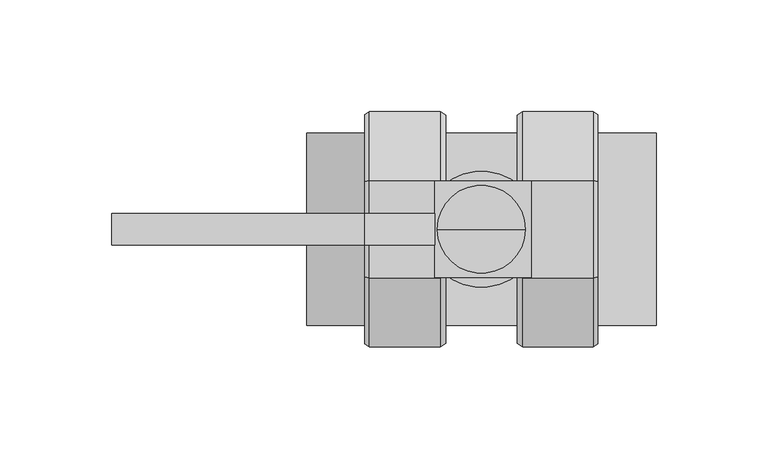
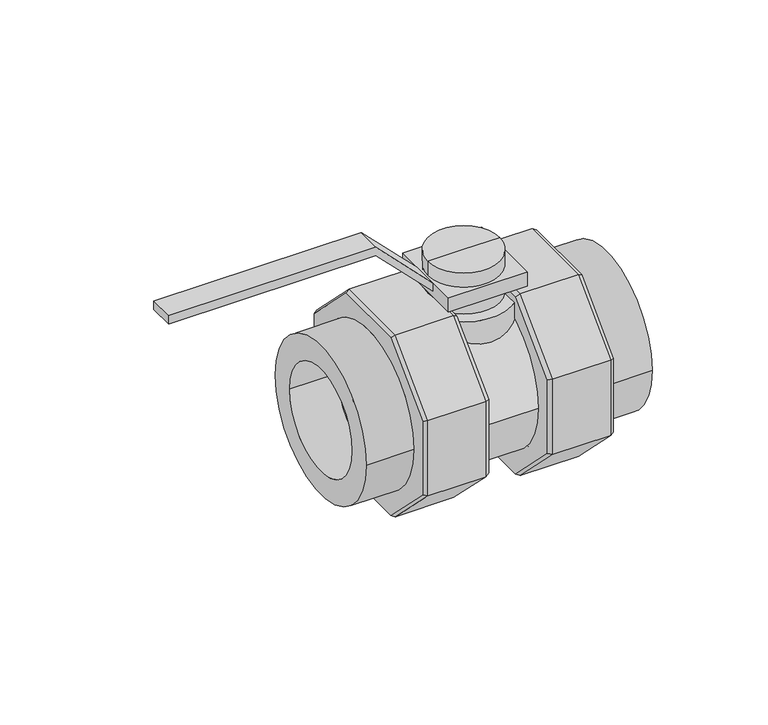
"""IFC4 building model written with IfcOpenShell, lengths in millimetres: valve geometry, EGB_VASEN_ PPR_Valvula de bola doble union WXR800 : Válvula de bola doble unión WXR800."""

from ifc_helpers import new_model, si_unit, point, frame, origin, origin_2d, place, context, project, spatial, polyline, circle_curve, trimmed, segment, composite_curve, outline, extrude, source, transform, mapped, element, save
from ifc_brep_helpers import plane_surface, cylinder_surface, revolved_surface, advanced_brep


def valve_08ffe37b(model_context):
    return source(origin(), model_context, "Body", "SolidModel", [
        advanced_brep(
        [(50.0, 21.746212, 52.5), (50.0, 52.5, 21.746212), (18.3609593, 52.5, 21.746212), (18.3609593, 21.746212, 52.5), (18.3609593, -21.746212, 52.5), (50.0, -21.746212, 52.5), (50.0, -21.746212, -52.5), (50.0, -52.5, -21.746212), (18.3609593, -52.5, -21.746212), (18.3609593, -21.746212, -52.5), (18.3609593, 21.746212, -52.5), (50.0, 21.746212, -52.5), (18.3609593, -52.5, 21.746212), (50.0, -52.5, 21.746212), (18.3609593, 52.5, -21.746212), (50.0, 52.5, -21.746212), (52.0, 21.2679194, 51.3452995), (52.0, -21.2679194, 51.3452995), (52.0, -51.3452995, 21.2679194), (52.0, -51.3452995, -21.2679194), (52.0, -21.2679194, -51.3452995), (52.0, 21.2679194, -51.3452995), (52.0, 51.3452995, -21.2679194), (52.0, 51.3452995, 21.2679194), (52.0, 43.0, 0.0), (52.0, -43.0, 0.0), (15.9114696, 51.0857864, 21.1604256), (15.9114696, 51.0857864, -21.1604256), (15.9114696, 21.1604256, -51.0857864), (15.9114696, -21.1604256, -51.0857864), (15.9114696, -51.0857864, -21.1604256), (15.9114696, -51.0857864, 21.1604256), (15.9114696, -21.1604256, 51.0857864), (15.9114696, 21.1604256, 51.0857864), (15.9114696, -43.0, 0.0), (15.9114696, 43.0, 0.0)],
        [
            (0, 1),
            (1, 2),
            (2, 3),
            (3, 0),
            (3, 4),
            (4, 5),
            (5, 0),
            (6, 7),
            (7, 8),
            (8, 9),
            (9, 6),
            (9, 10),
            (10, 11),
            (11, 6),
            (4, 12),
            (12, 13),
            (13, 5),
            (12, 8),
            (7, 13),
            (10, 14),
            (14, 15),
            (15, 11),
            (16, 17),
            (17, 18),
            (18, 19),
            (19, 20),
            (20, 21),
            (21, 22),
            (22, 23),
            (23, 16),
            (24, 25, circle_curve(frame((52.0, 0.0, 0.0), z_axis=(-1.0, 0.0, 0.0), x_axis=(0.0, -1.0, 0.0)), 43.0)),
            (25, 24, circle_curve(frame((52.0, 0.0, 0.0), z_axis=(-1.0, 0.0, 0.0), x_axis=(0.0, -1.0, 0.0)), 43.0)),
            (14, 2),
            (1, 15),
            (26, 27),
            (27, 28),
            (28, 29),
            (29, 30),
            (30, 31),
            (31, 32),
            (32, 33),
            (33, 26),
            (34, 35, circle_curve(frame((15.9114696, 0.0, 0.0), z_axis=(1.0, 0.0, 0.0), x_axis=(0.0, -1.0, 0.0)), 43.0)),
            (35, 34, circle_curve(frame((15.9114696, 0.0, 0.0), z_axis=(1.0, 0.0, 0.0), x_axis=(0.0, -1.0, 0.0)), 43.0)),
            (2, 26),
            (33, 3),
            (23, 1),
            (0, 16),
            (32, 4),
            (5, 17),
            (8, 30),
            (29, 9),
            (19, 7),
            (6, 20),
            (28, 10),
            (11, 21),
            (31, 12),
            (13, 18),
            (27, 14),
            (15, 22),
            (25, 34),
            (35, 24),
        ],
        [
            plane_surface(frame((52.0, 52.5, 21.746212), z_axis=(0.0, 0.7071067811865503, 0.7071067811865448), x_axis=(0.0, -0.7071067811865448, 0.7071067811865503))),
            plane_surface(frame((52.0, 21.746212, 52.5), z_axis=(0.0, 0.0, 1.0), x_axis=(0.0, -1.0, 0.0))),
            plane_surface(frame((52.0, -52.5, -21.746212), z_axis=(0.0, -0.7071067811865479, -0.7071067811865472), x_axis=(0.0, 0.7071067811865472, -0.7071067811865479))),
            plane_surface(frame((52.0, -21.746212, -52.5), z_axis=(0.0, 0.0, -1.0), x_axis=(0.0, 1.0, 0.0))),
            plane_surface(frame((52.0, -21.746212, 52.5), z_axis=(0.0, -0.7071067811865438, 0.7071067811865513), x_axis=(0.0, -0.7071067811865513, -0.7071067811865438))),
            plane_surface(frame((52.0, -52.5, 21.746212), z_axis=(0.0, -1.0, 0.0), x_axis=(0.0, 0.0, -1.0))),
            plane_surface(frame((52.0, 21.746212, -52.5), z_axis=(0.0, 0.7071067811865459, -0.7071067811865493), x_axis=(0.0, 0.7071067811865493, 0.7071067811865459))),
            plane_surface(frame((52.0, 0.0, 0.0), z_axis=(1.0, 0.0, 0.0), x_axis=(0.0, 0.0, 1.0))),
            plane_surface(frame((52.0, 52.5, -21.746212), z_axis=(0.0, 1.0, 0.0), x_axis=(0.0, 0.0, 1.0))),
            plane_surface(frame((15.9114696, 52.5, -21.746212), z_axis=(-1.0, 0.0, 0.0), x_axis=(0.0, 0.0, 1.0))),
            plane_surface(frame((15.9114696, 51.0857864, 21.1604256), z_axis=(-0.49999999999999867, 0.6123724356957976, 0.6123724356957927), x_axis=(0.0, -0.7071067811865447, 0.7071067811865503))),
            plane_surface(frame((50.0, 52.5, 21.746212), z_axis=(0.4999999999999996, 0.6123724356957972, 0.6123724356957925), x_axis=(0.0, -0.7071067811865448, 0.7071067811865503))),
            plane_surface(frame((15.9114696, 21.1604256, 51.0857864), z_axis=(-0.4999999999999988, 0.0, 0.8660254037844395), x_axis=(0.0, -1.0, 0.0))),
            plane_surface(frame((50.0, 21.746212, 52.5), z_axis=(0.4999999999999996, 0.0, 0.866025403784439), x_axis=(0.0, -1.0, 0.0))),
            plane_surface(frame((15.9114696, -51.0857864, -21.1604256), z_axis=(-0.4999999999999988, -0.6123724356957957, -0.6123724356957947), x_axis=(0.0, 0.707106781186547, -0.7071067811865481))),
            plane_surface(frame((50.0, -52.5, -21.746212), z_axis=(0.49999999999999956, -0.6123724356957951, -0.6123724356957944), x_axis=(0.0, 0.7071067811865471, -0.707106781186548))),
            plane_surface(frame((15.9114696, -21.1604256, -51.0857864), z_axis=(-0.4999999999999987, 0.0, -0.8660254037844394), x_axis=(0.0, 1.0, 0.0))),
            plane_surface(frame((50.0, -21.746212, -52.5), z_axis=(0.4999999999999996, 0.0, -0.8660254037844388), x_axis=(0.0, 1.0, 0.0))),
            plane_surface(frame((15.9114696, -21.1604256, 51.0857864), z_axis=(-0.4999999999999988, -0.6123724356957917, 0.6123724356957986), x_axis=(0.0, -0.7071067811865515, -0.7071067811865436))),
            plane_surface(frame((50.0, -21.746212, 52.5), z_axis=(0.49999999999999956, -0.6123724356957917, 0.612372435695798), x_axis=(0.0, -0.7071067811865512, -0.7071067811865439))),
            plane_surface(frame((15.9114696, -51.0857864, 21.1604256), z_axis=(-0.49999999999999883, -0.8660254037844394, 0.0), x_axis=(0.0, 0.0, -1.0))),
            plane_surface(frame((50.0, -52.5, 21.746212), z_axis=(0.49999999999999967, -0.8660254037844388, 0.0), x_axis=(0.0, 0.0, -1.0))),
            plane_surface(frame((15.9114696, 21.1604256, -51.0857864), z_axis=(-0.4999999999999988, 0.6123724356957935, -0.6123724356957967), x_axis=(0.0, 0.7071067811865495, 0.7071067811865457))),
            plane_surface(frame((50.0, 21.746212, -52.5), z_axis=(0.49999999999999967, 0.6123724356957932, -0.6123724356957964), x_axis=(0.0, 0.7071067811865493, 0.7071067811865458))),
            plane_surface(frame((15.9114696, 51.0857864, -21.1604256), z_axis=(-0.4999999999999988, 0.8660254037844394, 0.0), x_axis=(0.0, 0.0, 1.0))),
            plane_surface(frame((50.0, 52.5, -21.746212), z_axis=(0.4999999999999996, 0.8660254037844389, 0.0), x_axis=(0.0, 0.0, 1.0))),
            revolved_surface(polyline([(15.911469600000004, -43.0, 0.0), (52.0, -43.0, 0.0)]), (52.0, 0.0, 0.0), (-1.0, 0.0, 0.0)),
        ],
        [
            (0, [[1, 2, 3, 4]]),
            (1, [[5, 6, 7, -4]]),
            (2, [[8, 9, 10, 11]]),
            (3, [[12, 13, 14, -11]]),
            (4, [[15, 16, 17, -6]]),
            (5, [[18, -9, 19, -16]]),
            (6, [[20, 21, 22, -13]]),
            (7, [[23, 24, 25, 26, 27, 28, 29, 30], [31, 32]]),
            (8, [[33, -2, 34, -21]]),
            (9, [[35, 36, 37, 38, 39, 40, 41, 42], [43, 44]]),
            (10, [[-3, 45, -42, 46]]),
            (11, [[-30, 47, -1, 48]]),
            (12, [[-41, 49, -5, -46]]),
            (13, [[-7, 50, -23, -48]]),
            (14, [[-10, 51, -38, 52]]),
            (15, [[-26, 53, -8, 54]]),
            (16, [[-37, 55, -12, -52]]),
            (17, [[-14, 56, -27, -54]]),
            (18, [[-40, 57, -15, -49]]),
            (19, [[-17, 58, -24, -50]]),
            (20, [[-18, -57, -39, -51]]),
            (21, [[-25, -58, -19, -53]]),
            (22, [[-36, 59, -20, -55]]),
            (23, [[-22, 60, -28, -56]]),
            (24, [[-33, -59, -35, -45]]),
            (25, [[-29, -60, -34, -47]]),
            (26, [[-32, 61, -44, 62]]),
            (26, [[-43, -61, -31, -62]]),
        ],
    ),
        advanced_brep(
        [(-50.0, 21.746212, 52.5), (-18.3609593, 21.746212, 52.5), (-18.3609593, 52.5, 21.746212), (-50.0, 52.5, 21.746212), (-50.0, -21.746212, 52.5), (-18.3609593, -21.746212, 52.5), (-50.0, -21.746212, -52.5), (-18.3609593, -21.746212, -52.5), (-18.3609593, -52.5, -21.746212), (-50.0, -52.5, -21.746212), (-50.0, 21.746212, -52.5), (-18.3609593, 21.746212, -52.5), (-50.0, -52.5, 21.746212), (-18.3609593, -52.5, 21.746212), (-50.0, 52.5, -21.746212), (-18.3609593, 52.5, -21.746212), (-52.0, 21.2679194, 51.3452995), (-52.0, 51.3452995, 21.2679194), (-52.0, 51.3452995, -21.2679194), (-52.0, 21.2679194, -51.3452995), (-52.0, -21.2679194, -51.3452995), (-52.0, -51.3452995, -21.2679194), (-52.0, -51.3452995, 21.2679194), (-52.0, -21.2679194, 51.3452995), (-52.0, 43.0, 0.0), (-52.0, -43.0, 0.0), (-15.9114696, 51.0857864, 21.1604256), (-15.9114696, 21.1604256, 51.0857864), (-15.9114696, -21.1604256, 51.0857864), (-15.9114696, -51.0857864, 21.1604256), (-15.9114696, -51.0857864, -21.1604256), (-15.9114696, -21.1604256, -51.0857864), (-15.9114696, 21.1604256, -51.0857864), (-15.9114696, 51.0857864, -21.1604256), (-15.9114696, -43.0, 0.0), (-15.9114696, 43.0, 0.0)],
        [
            (0, 1),
            (1, 2),
            (2, 3),
            (3, 0),
            (0, 4),
            (4, 5),
            (5, 1),
            (6, 7),
            (7, 8),
            (8, 9),
            (9, 6),
            (6, 10),
            (10, 11),
            (11, 7),
            (4, 12),
            (12, 13),
            (13, 5),
            (12, 9),
            (8, 13),
            (10, 14),
            (14, 15),
            (15, 11),
            (16, 17),
            (17, 18),
            (18, 19),
            (19, 20),
            (20, 21),
            (21, 22),
            (22, 23),
            (23, 16),
            (24, 25, circle_curve(frame((-52.0, 0.0, 0.0), z_axis=(1.0, 0.0, 0.0), x_axis=(0.0, -1.0, 0.0)), 43.0)),
            (25, 24, circle_curve(frame((-52.0, 0.0, 0.0), z_axis=(1.0, 0.0, 0.0), x_axis=(0.0, -1.0, 0.0)), 43.0)),
            (14, 3),
            (2, 15),
            (26, 27),
            (27, 28),
            (28, 29),
            (29, 30),
            (30, 31),
            (31, 32),
            (32, 33),
            (33, 26),
            (34, 35, circle_curve(frame((-15.9114696, 0.0, 0.0), z_axis=(-1.0, 0.0, 0.0), x_axis=(0.0, -1.0, 0.0)), 43.0)),
            (35, 34, circle_curve(frame((-15.9114696, 0.0, 0.0), z_axis=(-1.0, 0.0, 0.0), x_axis=(0.0, -1.0, 0.0)), 43.0)),
            (1, 27),
            (26, 2),
            (16, 0),
            (3, 17),
            (5, 28),
            (23, 4),
            (7, 31),
            (30, 8),
            (20, 6),
            (9, 21),
            (11, 32),
            (19, 10),
            (13, 29),
            (22, 12),
            (15, 33),
            (18, 14),
            (24, 35),
            (34, 25),
        ],
        [
            plane_surface(frame((-52.0, 52.5, 21.746212), z_axis=(0.0, 0.7071067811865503, 0.7071067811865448), x_axis=(0.0, -0.7071067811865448, 0.7071067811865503))),
            plane_surface(frame((-52.0, 21.746212, 52.5), z_axis=(0.0, 0.0, 1.0), x_axis=(0.0, -1.0, 0.0))),
            plane_surface(frame((-52.0, -52.5, -21.746212), z_axis=(0.0, -0.7071067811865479, -0.7071067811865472), x_axis=(0.0, 0.7071067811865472, -0.7071067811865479))),
            plane_surface(frame((-52.0, -21.746212, -52.5), z_axis=(0.0, 0.0, -1.0), x_axis=(0.0, 1.0, 0.0))),
            plane_surface(frame((-52.0, -21.746212, 52.5), z_axis=(0.0, -0.7071067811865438, 0.7071067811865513), x_axis=(0.0, -0.7071067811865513, -0.7071067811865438))),
            plane_surface(frame((-52.0, -52.5, 21.746212), z_axis=(0.0, -1.0, 0.0), x_axis=(0.0, 0.0, -1.0))),
            plane_surface(frame((-52.0, 21.746212, -52.5), z_axis=(0.0, 0.7071067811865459, -0.7071067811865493), x_axis=(0.0, 0.7071067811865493, 0.7071067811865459))),
            plane_surface(frame((-52.0, 0.0, 0.0), z_axis=(-1.0, 0.0, 0.0), x_axis=(0.0, 0.0, 1.0))),
            plane_surface(frame((-52.0, 52.5, -21.746212), z_axis=(0.0, 1.0, 0.0), x_axis=(0.0, 0.0, 1.0))),
            plane_surface(frame((-15.9114696, 52.5, -21.746212), z_axis=(1.0, 0.0, 0.0), x_axis=(0.0, 0.0, 1.0))),
            plane_surface(frame((-15.9114696, 51.0857864, 21.1604256), z_axis=(0.49999999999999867, 0.6123724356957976, 0.6123724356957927), x_axis=(0.0, -0.7071067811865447, 0.7071067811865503))),
            plane_surface(frame((-50.0, 52.5, 21.746212), z_axis=(-0.4999999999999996, 0.6123724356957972, 0.6123724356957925), x_axis=(0.0, -0.7071067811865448, 0.7071067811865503))),
            plane_surface(frame((-15.9114696, 21.1604256, 51.0857864), z_axis=(0.4999999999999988, 0.0, 0.8660254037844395), x_axis=(0.0, -1.0, 0.0))),
            plane_surface(frame((-50.0, 21.746212, 52.5), z_axis=(-0.4999999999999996, 0.0, 0.866025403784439), x_axis=(0.0, -1.0, 0.0))),
            plane_surface(frame((-15.9114696, -51.0857864, -21.1604256), z_axis=(0.4999999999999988, -0.6123724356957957, -0.6123724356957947), x_axis=(0.0, 0.707106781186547, -0.7071067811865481))),
            plane_surface(frame((-50.0, -52.5, -21.746212), z_axis=(-0.49999999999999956, -0.6123724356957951, -0.6123724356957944), x_axis=(0.0, 0.7071067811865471, -0.707106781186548))),
            plane_surface(frame((-15.9114696, -21.1604256, -51.0857864), z_axis=(0.4999999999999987, 0.0, -0.8660254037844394), x_axis=(0.0, 1.0, 0.0))),
            plane_surface(frame((-50.0, -21.746212, -52.5), z_axis=(-0.4999999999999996, 0.0, -0.8660254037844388), x_axis=(0.0, 1.0, 0.0))),
            plane_surface(frame((-15.9114696, -21.1604256, 51.0857864), z_axis=(0.4999999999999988, -0.6123724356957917, 0.6123724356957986), x_axis=(0.0, -0.7071067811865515, -0.7071067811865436))),
            plane_surface(frame((-50.0, -21.746212, 52.5), z_axis=(-0.49999999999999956, -0.6123724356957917, 0.612372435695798), x_axis=(0.0, -0.7071067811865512, -0.7071067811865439))),
            plane_surface(frame((-15.9114696, -51.0857864, 21.1604256), z_axis=(0.49999999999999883, -0.8660254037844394, 0.0), x_axis=(0.0, 0.0, -1.0))),
            plane_surface(frame((-50.0, -52.5, 21.746212), z_axis=(-0.49999999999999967, -0.8660254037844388, 0.0), x_axis=(0.0, 0.0, -1.0))),
            plane_surface(frame((-15.9114696, 21.1604256, -51.0857864), z_axis=(0.4999999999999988, 0.6123724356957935, -0.6123724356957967), x_axis=(0.0, 0.7071067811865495, 0.7071067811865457))),
            plane_surface(frame((-50.0, 21.746212, -52.5), z_axis=(-0.49999999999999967, 0.6123724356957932, -0.6123724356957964), x_axis=(0.0, 0.7071067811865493, 0.7071067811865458))),
            plane_surface(frame((-15.9114696, 51.0857864, -21.1604256), z_axis=(0.4999999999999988, 0.8660254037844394, 0.0), x_axis=(0.0, 0.0, 1.0))),
            plane_surface(frame((-50.0, 52.5, -21.746212), z_axis=(-0.4999999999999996, 0.8660254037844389, 0.0), x_axis=(0.0, 0.0, 1.0))),
            revolved_surface(polyline([(-15.911469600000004, -43.0, 0.0), (-52.0, -43.0, 0.0)]), (-52.0, 0.0, 0.0), (1.0, 0.0, 0.0)),
        ],
        [
            (0, [[1, 2, 3, 4]]),
            (1, [[-1, 5, 6, 7]]),
            (2, [[8, 9, 10, 11]]),
            (3, [[-8, 12, 13, 14]]),
            (4, [[-6, 15, 16, 17]]),
            (5, [[-16, 18, -10, 19]]),
            (6, [[-13, 20, 21, 22]]),
            (7, [[23, 24, 25, 26, 27, 28, 29, 30], [31, 32]]),
            (8, [[-21, 33, -3, 34]]),
            (9, [[35, 36, 37, 38, 39, 40, 41, 42], [43, 44]]),
            (10, [[45, -35, 46, -2]]),
            (11, [[47, -4, 48, -23]]),
            (12, [[-45, -7, 49, -36]]),
            (13, [[-47, -30, 50, -5]]),
            (14, [[51, -39, 52, -9]]),
            (15, [[53, -11, 54, -27]]),
            (16, [[-51, -14, 55, -40]]),
            (17, [[-53, -26, 56, -12]]),
            (18, [[-49, -17, 57, -37]]),
            (19, [[-50, -29, 58, -15]]),
            (20, [[-52, -38, -57, -19]]),
            (21, [[-54, -18, -58, -28]]),
            (22, [[-55, -22, 59, -41]]),
            (23, [[-56, -25, 60, -20]]),
            (24, [[-46, -42, -59, -34]]),
            (25, [[-48, -33, -60, -24]]),
            (26, [[61, -43, 62, -31]]),
            (26, [[-61, -32, -62, -44]]),
        ],
    ),
        advanced_brep(
        [(0.0, 0.0, 0.0), (-26.0, 0.0, 0.0), (26.0, 0.0, 0.0), (19.6120112, 0.0, 71.25), (-19.6120112, 0.0, 71.25), (0.0, 0.0, 71.25), (19.6120112, 0.0, 47.5), (-19.6120112, 0.0, 47.5), (26.0, 0.0, 47.5), (-26.0, 0.0, 47.5)],
        [
            (0, 1),
            (1, 2, circle_curve(frame((0.0, 0.0, 0.0), z_axis=(0.0, 0.0, -1.0), x_axis=(-1.0, 0.0, 0.0)), 26.0)),
            (2, 0),
            (2, 1, circle_curve(frame((0.0, 0.0, 0.0), z_axis=(0.0, 0.0, -1.0), x_axis=(-1.0, 0.0, 0.0)), 26.0)),
            (3, 4, circle_curve(frame((0.0, 0.0, 71.25), z_axis=(0.0, 0.0, 1.0), x_axis=(-1.0, 0.0, 0.0)), 19.6120112)),
            (4, 5),
            (5, 3),
            (4, 3, circle_curve(frame((0.0, 0.0, 71.25), z_axis=(0.0, 0.0, 1.0), x_axis=(-1.0, 0.0, 0.0)), 19.6120112)),
            (6, 7, circle_curve(frame((0.0, 0.0, 47.5), z_axis=(0.0, 0.0, 1.0), x_axis=(-1.0, 0.0, 0.0)), 19.6120112)),
            (7, 4),
            (3, 6),
            (7, 6, circle_curve(frame((0.0, 0.0, 47.5), z_axis=(0.0, 0.0, 1.0), x_axis=(-1.0, 0.0, 0.0)), 19.6120112)),
            (8, 9, circle_curve(frame((0.0, 0.0, 47.5), z_axis=(0.0, 0.0, 1.0), x_axis=(-1.0, 0.0, 0.0)), 26.0)),
            (9, 7),
            (6, 8),
            (9, 8, circle_curve(frame((0.0, 0.0, 47.5), z_axis=(0.0, 0.0, 1.0), x_axis=(-1.0, 0.0, 0.0)), 26.0)),
            (1, 9),
            (8, 2),
        ],
        [
            plane_surface(frame((0.0, 0.0, 0.0), z_axis=(0.0, 0.0, -1.0), x_axis=(-1.0, 0.0, 0.0))),
            plane_surface(frame((0.0, 0.0, 71.25), z_axis=(0.0, 0.0, 1.0), x_axis=(-1.0, 0.0, 0.0))),
            cylinder_surface(frame((0.0, 0.0, 106.25), z_axis=(0.0, 0.0, -1.0), x_axis=(-1.0, 0.0, 0.0)), 19.6120112),
            plane_surface(frame((0.0, 0.0, 47.5), z_axis=(0.0, 0.0, 1.0), x_axis=(-1.0, 0.0, 0.0))),
            cylinder_surface(frame((0.0, 0.0, 106.25), z_axis=(0.0, 0.0, -1.0), x_axis=(-1.0, 0.0, 0.0)), 26.0),
        ],
        [
            (0, [[1, 2, 3]]),
            (0, [[-3, 4, -1]]),
            (1, [[5, 6, 7]]),
            (1, [[8, -7, -6]]),
            (2, [[9, 10, -5, 11]]),
            (2, [[12, -11, -8, -10]]),
            (3, [[13, 14, -9, 15]]),
            (3, [[16, -15, -12, -14]]),
            (4, [[-2, 17, -13, 18]]),
            (4, [[-4, -18, -16, -17]]),
        ],
    ),
        extrude(outline(composite_curve([segment(trimmed(circle_curve(origin_2d(), 43.0), [point((-43.0, 0.0))], [point((43.0, 0.0))], False, "CARTESIAN"), True, "CONTINUOUS"), segment(trimmed(circle_curve(origin_2d(), 43.0), [point((43.0, 0.0))], [point((-43.0, 0.0))], False, "CARTESIAN"), True, "CONTINUOUS")], self_intersect=False)), frame((-18.2431733, 0.0, 0.0), z_axis=(1.0, 0.0, 0.0), x_axis=(0.0, 1.0, 0.0)), (0.0, 0.0, 1.0), 36.4863466),
        extrude(outline(composite_curve([segment(trimmed(circle_curve(origin_2d(), 43.0), [point((-43.0, 0.0))], [point((43.0, 0.0))], False, "CARTESIAN"), True, "CONTINUOUS"), segment(trimmed(circle_curve(origin_2d(), 43.0), [point((43.0, 0.0))], [point((-43.0, 0.0))], False, "CARTESIAN"), True, "CONTINUOUS")], self_intersect=False), holes=[composite_curve([segment(trimmed(circle_curve(origin_2d(), 29.5), [point((-29.5, 0.0))], [point((29.5, 0.0))], True, "CARTESIAN"), True, "CONTINUOUS"), segment(trimmed(circle_curve(origin_2d(), 29.5), [point((29.5, 0.0))], [point((-29.5, 0.0))], True, "CARTESIAN"), True, "CONTINUOUS")], self_intersect=False)]), frame((-78.0, 0.0, 0.0), z_axis=(1.0, 0.0, 0.0), x_axis=(0.0, 1.0, 0.0)), (0.0, 0.0, 1.0), 26.0),
        extrude(outline(composite_curve([segment(trimmed(circle_curve(origin_2d(), 43.0), [point((-43.0, 0.0))], [point((43.0, 0.0))], False, "CARTESIAN"), True, "CONTINUOUS"), segment(trimmed(circle_curve(origin_2d(), 43.0), [point((43.0, 0.0))], [point((-43.0, 0.0))], False, "CARTESIAN"), True, "CONTINUOUS")], self_intersect=False), holes=[composite_curve([segment(trimmed(circle_curve(origin_2d(), 29.5), [point((-29.5, 0.0))], [point((29.5, 0.0))], True, "CARTESIAN"), True, "CONTINUOUS"), segment(trimmed(circle_curve(origin_2d(), 29.5), [point((29.5, 0.0))], [point((-29.5, 0.0))], True, "CARTESIAN"), True, "CONTINUOUS")], self_intersect=False)]), frame((52.0, 0.0, 0.0), z_axis=(1.0, 0.0, 0.0), x_axis=(0.0, 1.0, 0.0)), (0.0, 0.0, 1.0), 26.0),
        extrude(outline(polyline([(63.3333333, -20.8417809), (95.0, -52.0), (95.0, -165.0), (90.0, -165.0), (90.0, -52.0), (58.75, -20.8417809), (63.3333333, -20.8417809)])), frame((0.0, -7.0, 0.0), z_axis=(0.0, 1.0, 0.0), x_axis=(0.0, 0.0, 1.0)), (0.0, 0.0, 1.0), 14.0),
        extrude(outline(polyline([(22.1582191, -21.5), (-20.8417809, -21.5), (-20.8417809, 21.5), (22.1582191, 21.5), (22.1582191, -21.5)])), frame((0.0, 0.0, 55.4166667), z_axis=(0.0, 0.0, 1.0), x_axis=(1.0, 0.0, 0.0)), (0.0, 0.0, 1.0), 7.9166667),
        extrude(outline(composite_curve([segment(trimmed(circle_curve(origin_2d(), 18.0), [point((-18.0, 0.0))], [point((18.0, 0.0))], False, "CARTESIAN"), True, "CONTINUOUS"), segment(trimmed(circle_curve(origin_2d(), 18.0), [point((18.0, 0.0))], [point((-18.0, 0.0))], False, "CARTESIAN"), True, "CONTINUOUS")], self_intersect=False)), frame((-52.0, 0.0, 0.0), z_axis=(1.0, 0.0, 0.0), x_axis=(0.0, 1.0, 0.0)), (0.0, 0.0, 1.0), 33.7568267),
        extrude(outline(composite_curve([segment(trimmed(circle_curve(origin_2d(), 18.0), [point((-18.0, 0.0))], [point((18.0, 0.0))], False, "CARTESIAN"), True, "CONTINUOUS"), segment(trimmed(circle_curve(origin_2d(), 18.0), [point((18.0, 0.0))], [point((-18.0, 0.0))], False, "CARTESIAN"), True, "CONTINUOUS")], self_intersect=False)), frame((18.2431733, 0.0, 0.0), z_axis=(1.0, 0.0, 0.0), x_axis=(0.0, 1.0, 0.0)), (0.0, 0.0, 1.0), 33.7568267),
    ])


if __name__ == "__main__":
    model = new_model("IFC4")
    model_context = context("Model", 3, world=origin())
    ifc_project = project(units=[si_unit("LENGTHUNIT", "METRE", prefix="MILLI")], contexts=[model_context])
    site = spatial("IfcSite", under=ifc_project)
    building = spatial("IfcBuilding", under=site)
    placement = place(None, origin())
    valve_shape = valve_08ffe37b(model_context)
    element("IfcValve", 1, ObjectType="EGB_VASEN_ PPR_Valvula de bola doble union WXR800 : Válvula de bola doble unión WXR800", at=placement, inside=building, context=model_context, shape_type="MappedRepresentation", body=[
        mapped(valve_shape, transform((0.0, 0.0, 0.0), x_axis=(1.0, 0.0, 0.0), y_axis=(0.0, 1.0, 0.0), z_axis=(0.0, 0.0, 1.0))),
    ])
    save(model, "model.ifc")
